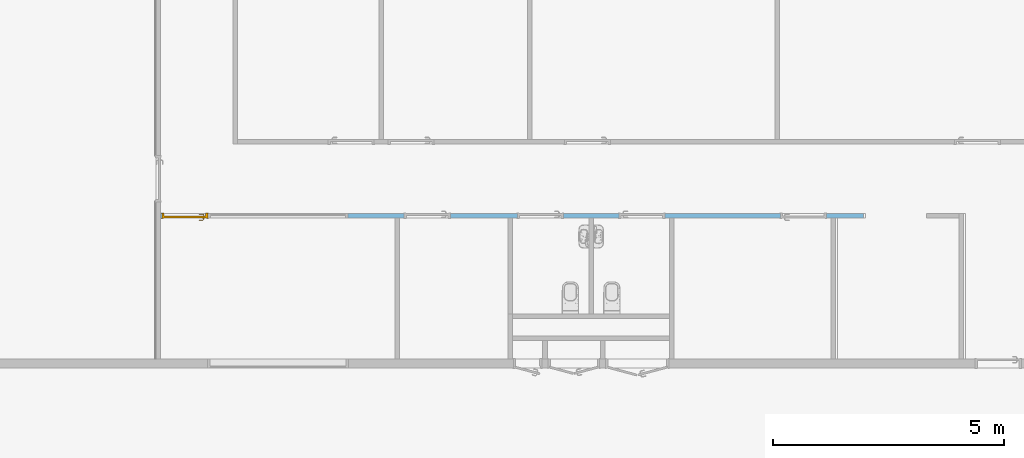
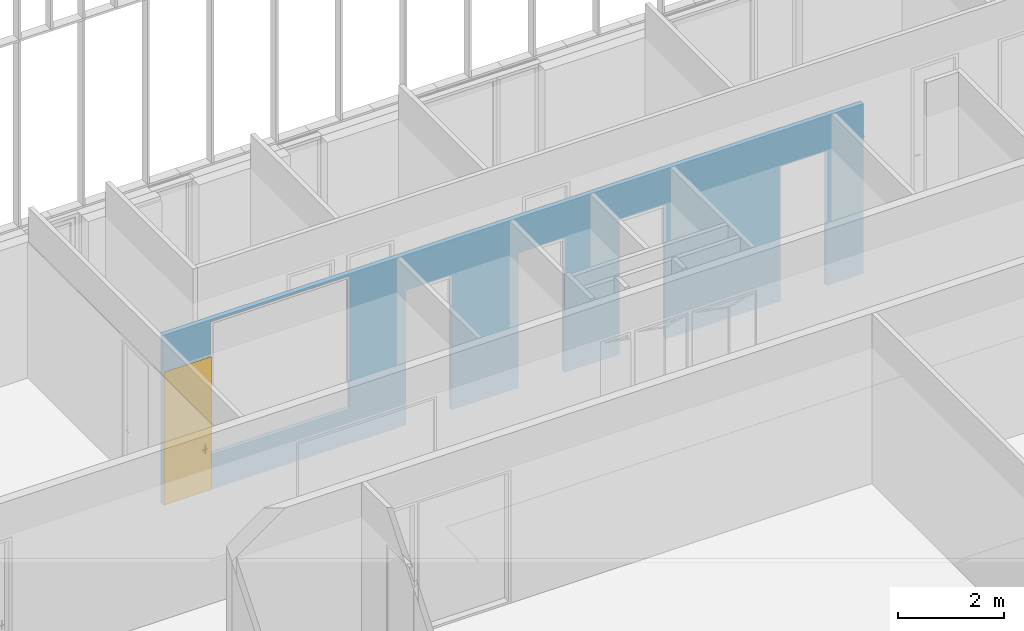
# One storey, part 142 of 240: 1 door, 6 openings, plus 1 element that does not belong to this part.
"""IFC2X3 building model written with IfcOpenShell, lengths in centimetres."""

from ifc_helpers import new_model, entity, si_unit, converted_unit, derived_unit, direction, frame, frame_2d, origin, place, context, subcontext, project, spatial, polyline, rectangle, extrude, clip, bounded_halfspace, faceted_brep, source, transform, mapped, material, material_list, layer, layer_set, layer_usage, type_object, type_shapes, element, fill, save


model = new_model("IFC2X3")

# Units and contexts
model_context = context("Model", 3, precision=0.001, world=origin(), true_north=direction((6.12303176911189e-17, 1.0)))
body_context = subcontext(model_context, "Body", "Model", "MODEL_VIEW")
ifc_project = project(units=[si_unit("LENGTHUNIT", "METRE", prefix="CENTI"), si_unit("AREAUNIT", "SQUARE_METRE"), si_unit("VOLUMEUNIT", "CUBIC_METRE"), converted_unit("PLANEANGLEUNIT", "DEGREE", entity("IfcRatioMeasure", 0.0174532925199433), si_unit("PLANEANGLEUNIT", "RADIAN"), dimensions=[0, 0, 0, 0, 0, 0, 0]), si_unit("MASSUNIT", "GRAM", prefix="KILO"), derived_unit("MASSDENSITYUNIT", [(si_unit("MASSUNIT", "GRAM", prefix="KILO"), 1), (si_unit("LENGTHUNIT", "METRE"), -3)]), si_unit("TIMEUNIT", "SECOND"), si_unit("FREQUENCYUNIT", "HERTZ"), si_unit("THERMODYNAMICTEMPERATUREUNIT", "DEGREE_CELSIUS"), derived_unit("THERMALTRANSMITTANCEUNIT", [(si_unit("MASSUNIT", "GRAM", prefix="KILO"), 1), (si_unit("THERMODYNAMICTEMPERATUREUNIT", "KELVIN"), -1), (si_unit("TIMEUNIT", "SECOND"), -3)]), derived_unit("VOLUMETRICFLOWRATEUNIT", [(si_unit("LENGTHUNIT", "METRE"), 3), (si_unit("TIMEUNIT", "SECOND"), -1)]), si_unit("ELECTRICCURRENTUNIT", "AMPERE"), si_unit("ELECTRICVOLTAGEUNIT", "VOLT"), si_unit("POWERUNIT", "WATT"), si_unit("FORCEUNIT", "NEWTON", prefix="KILO"), si_unit("ILLUMINANCEUNIT", "LUX"), si_unit("LUMINOUSFLUXUNIT", "LUMEN"), si_unit("LUMINOUSINTENSITYUNIT", "CANDELA"), derived_unit("USERDEFINED", [(si_unit("MASSUNIT", "GRAM", prefix="KILO"), -1), (si_unit("LENGTHUNIT", "METRE"), -2), (si_unit("TIMEUNIT", "SECOND"), 3), (si_unit("LUMINOUSFLUXUNIT", "LUMEN"), 1)]), derived_unit("LINEARVELOCITYUNIT", [(si_unit("LENGTHUNIT", "METRE"), 1), (si_unit("TIMEUNIT", "SECOND"), -1)]), si_unit("PRESSUREUNIT", "PASCAL"), derived_unit("USERDEFINED", [(si_unit("LENGTHUNIT", "METRE"), -2), (si_unit("MASSUNIT", "GRAM", prefix="KILO"), 1), (si_unit("TIMEUNIT", "SECOND"), -2)])], contexts=[model_context])

# Site, building, storey
site_placement = place(None, frame((-2781.94577612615, 7442.24238424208, 0.0)))
site = spatial("IfcSite", under=ifc_project, at=site_placement, Name="Default", CompositionType="ELEMENT")
building_placement = place(site_placement, origin())
building = spatial("IfcBuilding", under=site, at=building_placement, CompositionType="ELEMENT")
storey_placement = place(building_placement, origin())
storey = spatial("IfcBuildingStorey", under=building, at=storey_placement, Name="N00 - COO", CompositionType="ELEMENT", Elevation=0.0)

# Wall, openings, door
ifc_material_1 = material(Name="01 - Enduit/Plâtre")
ifc_layer_1 = layer(ifc_material_1, 1.3)
ifc_material_2 = material(Name="00 - Isolant")
ifc_layer_2 = layer(ifc_material_2, 7.4)
ifc_layer_3 = layer(ifc_material_1, 1.3)
ifc_layer_set = layer_set([ifc_layer_1, ifc_layer_2, ifc_layer_3], Name="Mur de base:06 - cloisons - Ba13 10cm")
ifc_layer_usage = layer_usage(ifc_layer_set, "AXIS2", "NEGATIVE", 5.0)
wall_type = type_object("IfcWallType", Name="Mur de base:06 - cloisons - Ba13 10cm", PredefinedType="STANDARD", material=ifc_layer_set)
wall_placement = place(building_placement, frame((-6043.49987760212, -500.0, 0.0), z_axis=(0.0, 0.0, 1.0), x_axis=(-1.0, 0.0, 0.0)))
wall = element("IfcWallStandardCase", 1, at=wall_placement, inside=storey, type_object=wall_type, material=ifc_layer_usage, Name="Mur de base:06 - cloisons - Ba13 10cm", ObjectType="Mur de base:06 - cloisons - Ba13 10cm", context=body_context, shape_type="Clipping", body=[
    clip(extrude(rectangle(XDim=1522.75, YDim=10.0000000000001, at=frame_2d((761.375000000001, 2.04281036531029e-14), x_axis=(-1.0, 0.0))), origin(), (0.0, 0.0, 1.0), 391.0), bounded_halfspace(frame((0.0, -5.0, 391.0), z_axis=(0.0, 0.0, -1.0), x_axis=(0.0, -1.0, 0.0)), True, frame((0.0, -5.0, 391.0)), polyline([(0.0, 0.0), (1522.75, 0.0), (1522.75, 10.0), (1015.0, 10.0), (1005.0, 10.0), (770.0, 10.0), (760.0, 10.0), (595.0, 10.0), (585.0, 10.0), (420.0, 10.0), (410.0, 10.0), (70.0, 10.0), (60.0, 10.0), (0.0, 10.0), (0.0, 0.0)]))),
])
opening_1_placement = place(wall_placement, frame((80.0, -5.0, 0.0)))
element("IfcOpeningElement", 2, at=opening_1_placement, cuts=wall, Name="Int. Simple:PP (0.93m x 3.06m):1", ObjectType="Opening", context=body_context, shape_type="SweptSolid", body=[
    extrude(rectangle(XDim=309.500000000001, YDim=99.9999999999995, at=frame_2d((154.750000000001, 50.0), x_axis=(1.0, 0.0))), frame((0.0, 0.0, 0.0), z_axis=(0.0, 1.0, 0.0), x_axis=(0.0, 0.0, 1.0)), (0.0, 0.0, 1.0), 10.0),
])
opening_2_placement = place(wall_placement, frame((530.0, 5.0, 0.0)))
element("IfcOpeningElement", 3, at=opening_2_placement, cuts=wall, Name="Int. Simple:PP (0.93m x 3.06m):1", ObjectType="Opening", context=body_context, shape_type="SweptSolid", body=[
    extrude(rectangle(XDim=309.500000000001, YDim=99.9999999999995, at=frame_2d((154.750000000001, 49.9999999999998), x_axis=(1.0, 0.0))), frame((0.0, 0.0, 0.0), z_axis=(0.0, -1.0, 0.0), x_axis=(0.0, 0.0, 1.0)), (0.0, 0.0, 1.0), 10.0),
])
opening_3_placement = place(wall_placement, frame((750.0, 5.0, 0.0)))
element("IfcOpeningElement", 4, at=opening_3_placement, cuts=wall, Name="Int. Simple:PP (0.93m x 3.06m):1", ObjectType="Opening", context=body_context, shape_type="SweptSolid", body=[
    extrude(rectangle(XDim=309.500000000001, YDim=99.9999999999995, at=frame_2d((154.750000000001, 50.0), x_axis=(1.0, 0.0))), frame((0.0, 0.0, 0.0), z_axis=(0.0, -1.0, 0.0), x_axis=(0.0, 0.0, 1.0)), (0.0, 0.0, 1.0), 10.0),
])
opening_4_placement = place(wall_placement, frame((995.0, 5.0, 0.0)))
element("IfcOpeningElement", 5, at=opening_4_placement, cuts=wall, Name="Int. Simple:PP (0.93m x 3.06m):1", ObjectType="Opening", context=body_context, shape_type="SweptSolid", body=[
    extrude(rectangle(XDim=309.500000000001, YDim=99.9999999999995, at=frame_2d((154.750000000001, 50.0), x_axis=(1.0, 0.0))), frame((0.0, 0.0, 0.0), z_axis=(0.0, -1.0, 0.0), x_axis=(0.0, 0.0, 1.0)), (0.0, 0.0, 1.0), 10.0),
])
opening_5_placement = place(wall_placement, frame((1420.0, -5.0, 0.0)))
opening_5 = element("IfcOpeningElement", 6, at=opening_5_placement, cuts=wall, Name="Int. Simple:PV (0.93m x 3.00m):1", ObjectType="Opening", context=body_context, shape_type="SweptSolid", body=[
    extrude(rectangle(XDim=304.500000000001, YDim=99.9999999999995, at=frame_2d((152.250000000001, 49.9999999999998), x_axis=(1.0, 0.0))), frame((0.0, 0.0, 0.0), z_axis=(0.0, 1.0, 0.0), x_axis=(0.0, 0.0, 1.0)), (0.0, 0.0, 1.0), 10.0),
])
opening_6_placement = place(wall_placement, frame((1116.72491693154, -5.0, 80.0)))
element("IfcOpeningElement", 7, at=opening_6_placement, cuts=wall, Name="châssis intérieur vitré:châssis intérieur vitré (h=306):1", ObjectType="Opening", context=body_context, shape_type="SweptSolid", body=[
    extrude(rectangle(XDim=306.0, YDim=302.862969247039, at=frame_2d((153.0, 151.43148462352), x_axis=(1.0, 0.0))), frame((0.0, 0.0, 0.0), z_axis=(0.0, 1.0, 0.0), x_axis=(0.0, 0.0, 1.0)), (0.0, 0.0, 1.0), 10.0),
])
ifc_material_3 = material(Name="Finition Peinture - Blanc satiné")
ifc_material_4 = material(Name="Bois - Panneau de porte")
ifc_material_5 = material(Name="Bois - Cadre de porte")
ifc_material_list_1 = material_list([ifc_material_3, ifc_material_4, ifc_material_5])
ifc_material_list_2 = material_list([ifc_material_3, ifc_material_4, ifc_material_5])
door_style = type_object("IfcDoorStyle", Name="PV (0.93m x 3.00m)", ConstructionType="NOTDEFINED", OperationType="SINGLE_SWING_RIGHT", ParameterTakesPrecedence=False, Sizeable=False, material=ifc_material_list_2)
shared_shape = source(origin(), body_context, "Body", "Brep", [
    faceted_brep([(99.5000000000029, -0.500000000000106, 87.0), (99.5000000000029, -0.500000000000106, 108.0), (98.535276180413, -0.500000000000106, 108.399601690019), (97.5000000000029, -0.500000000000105, 108.535898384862), (96.4647238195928, -0.500000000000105, 108.399601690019), (95.500000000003, -0.500000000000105, 108.0), (95.5000000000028, -0.500000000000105, 87.0), (96.4647238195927, -0.500000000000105, 86.6003983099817), (97.5000000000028, -0.500000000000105, 86.464101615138), (98.5352761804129, -0.500000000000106, 86.6003983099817), (99.5000000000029, 0.0, 108.0), (99.5000000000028, 0.0, 87.0), (98.5352761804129, 0.0, 86.6003983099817), (97.5000000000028, 0.0, 86.464101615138), (96.4647238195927, 0.0, 86.6003983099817), (95.5000000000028, 0.0, 87.0), (95.5000000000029, 0.0, 108.0), (96.4647238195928, 0.0, 108.399601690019), (97.5000000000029, 0.0, 108.535898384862), (98.535276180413, 0.0, 108.399601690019)], [[[0, 1, 2, 3, 4, 5, 6, 7, 8, 9]], [[10, 11, 12, 13, 14, 15, 16, 17, 18, 19]], [[9, 12, 11, 0]], [[8, 13, 12, 9]], [[7, 14, 13, 8]], [[7, 6, 15, 14]], [[15, 6, 5, 16]], [[4, 17, 16, 5]], [[3, 18, 17, 4]], [[2, 19, 18, 3]], [[2, 1, 10, 19]], [[11, 10, 1, 0]]]),
    faceted_brep([(99.5000000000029, 4.0, 87.0), (99.5000000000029, 4.0, 108.0), (98.535276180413, 4.0, 108.399601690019), (97.5000000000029, 4.0, 108.535898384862), (96.4647238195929, 4.0, 108.399601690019), (95.500000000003, 4.0, 108.0), (95.5000000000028, 4.0, 87.0), (96.4647238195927, 4.0, 86.6003983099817), (97.5000000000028, 4.0, 86.464101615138), (98.5352761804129, 4.0, 86.6003983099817), (97.5000000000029, 4.49999999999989, 108.535898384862), (98.535276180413, 4.49999999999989, 108.399601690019), (99.5000000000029, 4.49999999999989, 108.0), (99.5000000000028, 4.49999999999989, 87.0), (98.5352761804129, 4.49999999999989, 86.6003983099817), (97.5000000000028, 4.49999999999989, 86.464101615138), (96.4647238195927, 4.49999999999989, 86.6003983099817), (95.5000000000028, 4.49999999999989, 87.0), (95.500000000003, 4.49999999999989, 108.0), (96.4647238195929, 4.49999999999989, 108.399601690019)], [[[0, 1, 2, 3, 4, 5, 6, 7, 8, 9]], [[10, 11, 12, 13, 14, 15, 16, 17, 18, 19]], [[4, 19, 18, 5]], [[3, 10, 19, 4]], [[2, 11, 10, 3]], [[2, 1, 12, 11]], [[13, 12, 1, 0]], [[9, 14, 13, 0]], [[8, 15, 14, 9]], [[7, 16, 15, 8]], [[7, 6, 17, 16]], [[17, 6, 5, 18]]]),
    faceted_brep([(97.2974701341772, -0.50000000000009, 100.778044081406), (97.7025298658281, -0.500000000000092, 100.778044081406), (98.1000000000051, -0.500000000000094, 100.699999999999), (98.100000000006, -0.500000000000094, 99.2999999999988), (97.7025298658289, -0.500000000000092, 99.221955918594), (97.297470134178, -0.50000000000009, 99.2219559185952), (96.9000000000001, -0.500000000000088, 99.3000000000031), (96.9000000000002, -0.500000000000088, 100.7), (97.7025298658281, -3.10045754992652, 100.778044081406), (98.1000000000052, -3.26509507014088, 100.7), (97.2974701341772, -2.93267631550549, 100.778044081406), (95.9298602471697, -4.30028620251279, 100.778044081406), (96.0976414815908, -4.70534593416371, 100.778044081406), (96.9000000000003, -2.76803879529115, 100.7), (96.9000000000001, -2.76803879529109, 99.3000000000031), (97.297470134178, -2.93267631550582, 99.2219559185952), (97.7025298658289, -3.10045754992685, 99.221955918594), (96.0976414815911, -4.70534593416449, 99.221955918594), (95.9298602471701, -4.30028620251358, 99.2219559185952), (98.100000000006, -3.26509507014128, 99.2999999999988), (96.2622790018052, -5.10281606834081, 100.7), (95.7652227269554, -3.90281606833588, 100.7), (95.7652227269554, -3.90281606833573, 99.3000000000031), (96.2622790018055, -5.10281606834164, 99.2999999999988), (87.4981359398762, -5.10281606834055, 100.7), (87.4981359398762, -4.70534593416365, 100.778044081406), (87.4981359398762, -4.30028620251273, 100.778044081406), (87.4981359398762, -3.90281606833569, 100.699999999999), (87.4981359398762, -3.90281606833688, 99.3000000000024), (87.4981359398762, -4.30028620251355, 99.2219559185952), (87.4981359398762, -4.70534593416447, 99.221955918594), (87.4981359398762, -5.10281606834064, 99.2999999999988), (91.7139980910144, -4.5028160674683, 100.78786867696), (92.2692302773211, -5.1028160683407, 100.7), (91.6316793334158, -3.9028160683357, 100.7), (91.631679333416, -3.9028160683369, 99.3000000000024), (91.7139981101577, -4.50281607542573, 99.2121313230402), (92.2692310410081, -5.10281606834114, 99.2999999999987)], [[[0, 1, 2, 3, 4, 5, 6, 7]], [[2, 1, 8, 9]], [[1, 0, 10, 11, 12, 8]], [[0, 7, 13, 10]], [[14, 13, 7, 6]], [[5, 15, 14, 6]], [[5, 4, 16, 17, 18, 15]], [[3, 19, 16, 4]], [[9, 19, 3, 2]], [[9, 8, 12, 20]], [[10, 13, 21, 11]], [[22, 21, 13, 14]], [[14, 15, 18, 22]], [[16, 19, 23, 17]], [[20, 23, 19, 9]], [[24, 25, 26, 27, 28, 29, 30, 31]], [[32, 25, 33]], [[33, 25, 24]], [[33, 20, 12]], [[11, 34, 32]], [[34, 11, 21]], [[27, 26, 34]], [[32, 26, 25]], [[32, 34, 26]], [[32, 33, 12]], [[11, 32, 12]], [[21, 22, 35, 28, 27, 34]], [[36, 29, 35]], [[30, 36, 37]], [[18, 35, 22]], [[29, 28, 35]], [[30, 37, 31]], [[37, 17, 23]], [[36, 17, 37]], [[36, 18, 17]], [[36, 35, 18]], [[29, 36, 30]], [[23, 20, 33, 24, 31, 37]]]),
    faceted_brep([(97.2974701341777, 4.49999999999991, 99.2219559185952), (97.7025298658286, 4.49999999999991, 99.221955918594), (98.1000000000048, 4.4999999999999, 99.2999999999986), (98.1000000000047, 4.4999999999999, 100.7), (97.7025298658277, 4.49999999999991, 100.778044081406), (97.2974701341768, 4.49999999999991, 100.778044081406), (96.8999999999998, 4.49999999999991, 100.7), (96.900000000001, 4.49999999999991, 99.3000000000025), (96.8999999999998, 6.7485204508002, 100.7), (96.8999999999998, 6.74852045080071, 99.3000000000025), (97.2974701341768, 6.91315797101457, 100.778044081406), (97.7025298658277, 7.0809392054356, 100.778044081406), (96.0838906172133, 8.69957845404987, 100.778044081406), (95.9161093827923, 8.29451872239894, 100.778044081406), (98.1000000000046, 7.24557672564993, 100.7), (98.1000000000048, 7.24557672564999, 99.2999999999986), (97.7025298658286, 7.08093920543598, 99.221955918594), (97.2974701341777, 6.91315797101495, 99.2219559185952), (95.9161093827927, 8.29451872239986, 99.2219559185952), (96.0838906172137, 8.69957845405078, 99.221955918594), (95.751471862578, 7.89704858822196, 100.7), (95.7514718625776, 7.89704858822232, 99.3000000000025), (96.2485281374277, 9.09704858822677, 100.7), (96.2485281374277, 9.09704858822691, 99.2999999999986), (87.4954216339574, 8.29451872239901, 100.778044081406), (87.4954216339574, 8.69957845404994, 100.778044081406), (87.4954216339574, 9.09704858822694, 100.7), (87.4954216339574, 9.09704858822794, 99.2999999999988), (87.4954216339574, 8.6995784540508, 99.221955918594), (87.4954216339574, 8.29451872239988, 99.2219559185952), (87.4954216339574, 7.89704858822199, 99.3000000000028), (87.4954216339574, 7.89704858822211, 100.7), (91.6234467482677, 7.89704858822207, 100.7), (91.6234479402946, 7.89704858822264, 99.3000000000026), (91.7057655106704, 8.49704858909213, 100.78786867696), (92.255479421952, 9.09704858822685, 100.7), (92.2554795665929, 9.09704858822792, 99.2999999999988), (91.7057654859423, 8.49704858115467, 99.2121313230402)], [[[0, 1, 2, 3, 4, 5, 6, 7]], [[8, 9, 7, 6]], [[5, 10, 8, 6]], [[5, 4, 11, 12, 13, 10]], [[3, 14, 11, 4]], [[14, 3, 2, 15]], [[2, 1, 16, 15]], [[1, 0, 17, 18, 19, 16]], [[0, 7, 9, 17]], [[20, 21, 9, 8]], [[8, 10, 13, 20]], [[14, 22, 12, 11]], [[23, 22, 14, 15]], [[15, 16, 19, 23]], [[17, 9, 21, 18]], [[24, 25, 26, 27, 28, 29, 30, 31]], [[21, 20, 32, 31, 30, 33]], [[34, 24, 32]], [[25, 34, 35]], [[13, 32, 20]], [[24, 31, 32]], [[25, 35, 26]], [[35, 12, 22]], [[34, 12, 35]], [[34, 13, 12]], [[34, 32, 13]], [[24, 34, 25]], [[22, 23, 36, 27, 26, 35]], [[37, 28, 36]], [[36, 28, 27]], [[36, 23, 19]], [[18, 33, 37]], [[33, 18, 21]], [[30, 29, 33]], [[37, 29, 28]], [[37, 33, 29]], [[37, 36, 19]], [[18, 37, 19]]]),
    faceted_brep([(103.500000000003, 4.0, 301.0), (103.500000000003, 4.0, 0.0), (10.5000000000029, 4.0, 0.0), (10.5000000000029, 4.0, 301.0), (103.500000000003, 0.0, 301.0), (10.5000000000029, 0.0, 301.0), (10.5000000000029, 0.0, 0.0), (103.500000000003, 0.0, 0.0)], [[[0, 1, 2, 3]], [[4, 5, 6, 7]], [[3, 5, 4, 0]], [[2, 6, 5, 3]], [[1, 7, 6, 2]], [[0, 4, 7, 1]]]),
    faceted_brep([(107.0, 10.0, 0.0), (107.0, 0.0, 0.0), (108.500000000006, 0.0, 0.0), (108.500000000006, -0.500000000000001, 0.0), (103.500000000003, -0.500000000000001, 0.0), (103.500000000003, 4.0, 0.0), (102.0, 4.0, 0.0), (102.0, 10.5000000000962, 0.0), (108.500000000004, 10.5000000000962, 0.0), (108.500000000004, 10.0, 0.0), (108.500000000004, 10.0, 306.0), (5.50000000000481, 10.0, 306.0), (5.50000000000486, 10.0, 0.0), (7.0, 10.0, 0.0), (7.0, 10.0, 304.500000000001), (107.0, 10.0, 304.500000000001), (108.500000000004, 10.5000000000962, 306.0), (102.0, 10.5000000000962, 299.5), (12.0, 10.5000000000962, 299.5), (12.0, 10.5000000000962, 0.0), (5.50000000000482, 10.5000000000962, 0.0), (5.50000000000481, 10.5000000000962, 306.0), (102.0, 4.0, 299.5), (103.500000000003, 4.0, 301.0), (10.5000000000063, 4.0, 301.0), (10.5000000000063, 4.0, 0.0), (12.0, 4.0, 0.0), (12.0, 4.0, 299.5), (103.500000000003, -0.500000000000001, 301.0), (108.500000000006, -0.500000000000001, 306.0), (5.5000000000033, -0.500000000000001, 306.0), (5.50000000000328, -0.500000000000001, 0.0), (10.5000000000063, -0.500000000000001, 0.0), (10.5000000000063, -0.500000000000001, 301.0), (108.500000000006, 0.0, 306.0), (107.0, 0.0, 304.500000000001), (7.0, 0.0, 304.500000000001), (7.0, 0.0, 0.0), (5.5000000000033, 0.0, 0.0), (5.50000000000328, 0.0, 306.0)], [[[0, 1, 2, 3, 4, 5, 6, 7, 8, 9]], [[9, 10, 11, 12, 13, 14, 15, 0]], [[8, 16, 10, 9]], [[7, 17, 18, 19, 20, 21, 16, 8]], [[7, 6, 22, 17]], [[5, 23, 24, 25, 26, 27, 22, 6]], [[5, 4, 28, 23]], [[3, 29, 30, 31, 32, 33, 28, 4]], [[2, 34, 29, 3]], [[1, 35, 36, 37, 38, 39, 34, 2]], [[0, 15, 35, 1]], [[14, 13, 37, 36]], [[13, 12, 20, 19, 26, 25, 32, 31, 38, 37]], [[21, 20, 12, 11]], [[27, 26, 19, 18]], [[33, 32, 25, 24]], [[39, 38, 31, 30]], [[15, 14, 36, 35]], [[16, 21, 11, 10]], [[22, 27, 18, 17]], [[28, 33, 24, 23]], [[34, 39, 30, 29]]]),
])
type_shapes(door_style, [shared_shape])
door_placement = place(opening_5_placement, frame((107.0, 10.0, 0.0), z_axis=(0.0, 0.0, 1.0), x_axis=(-1.0, 0.0, 0.0)))
door = element("IfcDoor", 8, at=door_placement, inside=storey, type_object=door_style, material=ifc_material_list_1, Name="Int. Simple:PV (0.93m x 3.00m)", ObjectType="Int. Simple:PV (0.93m x 3.00m)", OverallHeight=304.500000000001, OverallWidth=99.9999999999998, context=body_context, shape_type="MappedRepresentation", body=[
    mapped(shared_shape, transform((0.0, 0.0, 0.0), scale=1.0)),
])
fill(opening_5, door)

save(model, "model.ifc")
